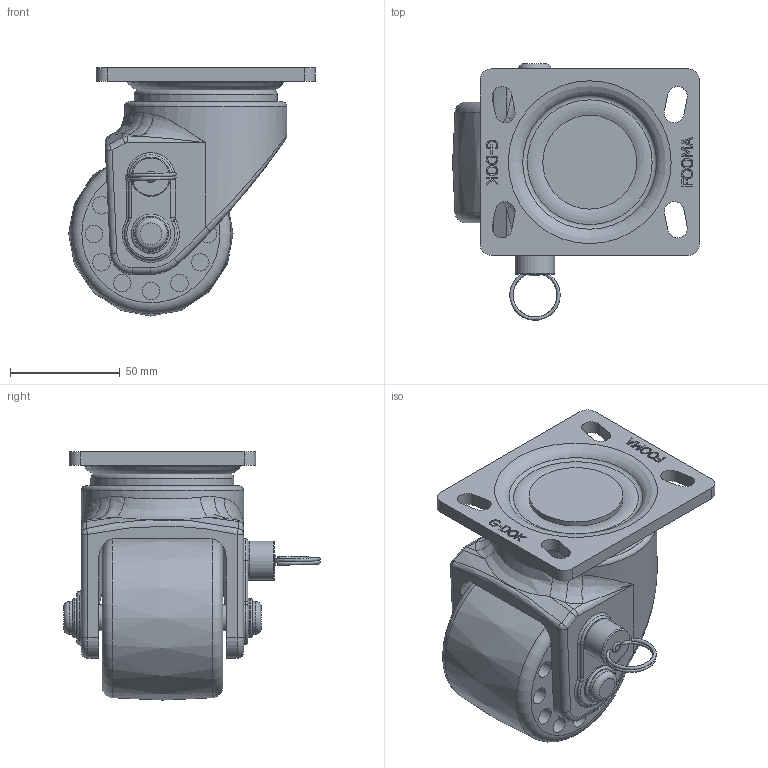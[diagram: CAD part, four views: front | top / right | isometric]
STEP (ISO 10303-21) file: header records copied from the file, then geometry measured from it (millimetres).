
FILE_DESCRIPTION(/* description */ (' '),/* implementation_level */ '2;1');
FILE_NAME(/* name */ 'E:\홈피용도면\홈페이지용3d\GLH-SERIES(PEU,PUS)\GLH-75-BSF-PEU.stp',/* time_stamp */ '2017-01-25T17:59:01+09:00',/* author */ ('Administrator'),/* organization */ (' '),/* preprocessor_version */ 'ST-DEVELOPER v16.5',/* originating_system */ 'Autodesk Inventor 2017',/* authorisation */ ' ');
FILE_SCHEMA (('AUTOMOTIVE_DESIGN { 1 0 10303 214 3 1 1 }'));
Length unit declared in the file: millimetre
Products named in the file (1): GLH-75-BSF-PEU
Bounding box: 112.5 x 116.96 x 113.13 mm (x, y, z)
Volume: 439572.9 mm3; surface area: 73128.4 mm2
Topology: 1 solids, 3 shells, 481 faces, 1169 edges, 748 vertices
Faces by surface type: plane 175, bspline 153, cylinder 70, torus 36, cone 25, sphere 22
Full cylindrical faces by diameter (mm): 6.912 x1, 7.8 x1, 8 x24, 11.95 x2, 12.2 x2, 12.676 x1, 15 x2, 18 x3, 42.8 x1, 65.14 x1, 74 x1
Entity records: 23056 total; most frequent: CARTESIAN_POINT 12693, ORIENTED_EDGE 2166, DIRECTION 1914, EDGE_CURVE 1083, AXIS2_PLACEMENT_3D 762, VERTEX_POINT 731, EDGE_LOOP 616, FACE_OUTER_BOUND 481
